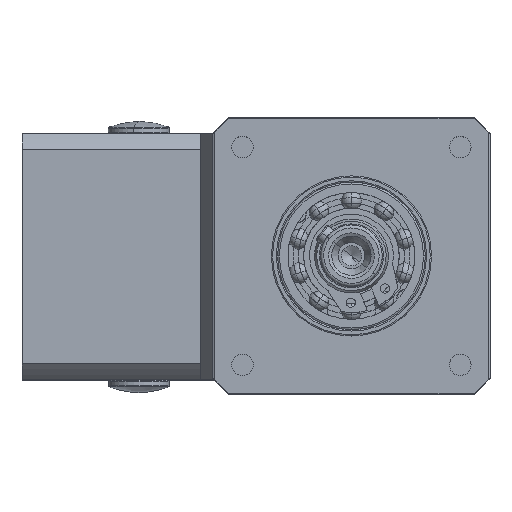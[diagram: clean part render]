
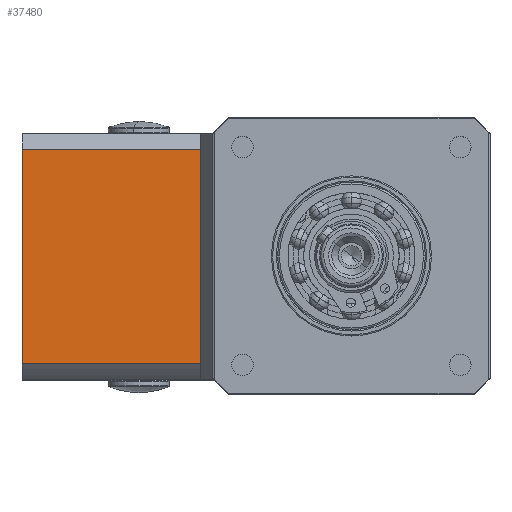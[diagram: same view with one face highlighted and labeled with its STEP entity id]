
A CAD part, top view. The second image highlights one B-rep face of the part: STEP entity #37480.
In plain terms, the highlighted planar face has unit normal (0, 0, 1).
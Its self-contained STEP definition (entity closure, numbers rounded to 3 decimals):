
#1560 = ORIENTED_EDGE ( 'NONE', *, *, #32289, .T. ) ;
#2204 = LINE ( 'NONE', #15331, #42668 ) ;
#2807 = VERTEX_POINT ( 'NONE', #41602 ) ;
#3161 = VERTEX_POINT ( 'NONE', #6261 ) ;
#3175 = ORIENTED_EDGE ( 'NONE', *, *, #39211, .T. ) ;
#6261 = CARTESIAN_POINT ( 'NONE',  ( -58.31, -3.523, -26.75 ) ) ;
#9495 = EDGE_CURVE ( 'NONE', #2807, #3161, #44960, .T. ) ;
#9696 = DIRECTION ( 'NONE',  ( -1., 0., 0. ) ) ;
#9840 = AXIS2_PLACEMENT_3D ( 'NONE', #23972, #31553, #27605 ) ;
#13085 = VECTOR ( 'NONE', #9696, 1000. ) ;
#14982 = CARTESIAN_POINT ( 'NONE',  ( -58.31, 31.247, -26.75 ) ) ;
#14986 = DIRECTION ( 'NONE',  ( 0., 1., 0. ) ) ;
#15328 = EDGE_CURVE ( 'NONE', #3161, #43742, #18625, .T. ) ;
#15331 = CARTESIAN_POINT ( 'NONE',  ( -29.31, 33.862, -26.75 ) ) ;
#17342 = CARTESIAN_POINT ( 'NONE',  ( -29.31, -3.523, -26.75 ) ) ;
#18421 = CARTESIAN_POINT ( 'NONE',  ( -29.31, 31.247, -26.75 ) ) ;
#18625 = LINE ( 'NONE', #30689, #25348 ) ;
#19632 = ORIENTED_EDGE ( 'NONE', *, *, #15328, .F. ) ;
#22551 = VECTOR ( 'NONE', #25939, 1000. ) ;
#23972 = CARTESIAN_POINT ( 'NONE',  ( -58.31, 33.862, -26.75 ) ) ;
#24495 = CARTESIAN_POINT ( 'NONE',  ( -29.31, 31.247, -26.75 ) ) ;
#25348 = VECTOR ( 'NONE', #46154, 1000. ) ;
#25939 = DIRECTION ( 'NONE',  ( -1., 0., 0. ) ) ;
#27605 = DIRECTION ( 'NONE',  ( 1., 0., 0. ) ) ;
#28117 = PLANE ( 'NONE',  #9840 ) ;
#30540 = LINE ( 'NONE', #18421, #22551 ) ;
#30689 = CARTESIAN_POINT ( 'NONE',  ( -58.31, 33.862, -26.75 ) ) ;
#31553 = DIRECTION ( 'NONE',  ( 0., 0., -1. ) ) ;
#32289 = EDGE_CURVE ( 'NONE', #2807, #48194, #2204, .T. ) ;
#37480 = ADVANCED_FACE ( 'NONE', ( #47229 ), #28117, .F. ) ;
#39211 = EDGE_CURVE ( 'NONE', #48194, #43742, #30540, .T. ) ;
#39953 = EDGE_LOOP ( 'NONE', ( #3175, #19632, #48910, #1560 ) ) ;
#41602 = CARTESIAN_POINT ( 'NONE',  ( -29.31, -3.523, -26.75 ) ) ;
#42668 = VECTOR ( 'NONE', #14986, 1000. ) ;
#43742 = VERTEX_POINT ( 'NONE', #14982 ) ;
#44960 = LINE ( 'NONE', #17342, #13085 ) ;
#46154 = DIRECTION ( 'NONE',  ( 0., 1., 0. ) ) ;
#47229 = FACE_OUTER_BOUND ( 'NONE', #39953, .T. ) ;
#48194 = VERTEX_POINT ( 'NONE', #24495 ) ;
#48910 = ORIENTED_EDGE ( 'NONE', *, *, #9495, .F. ) ;
